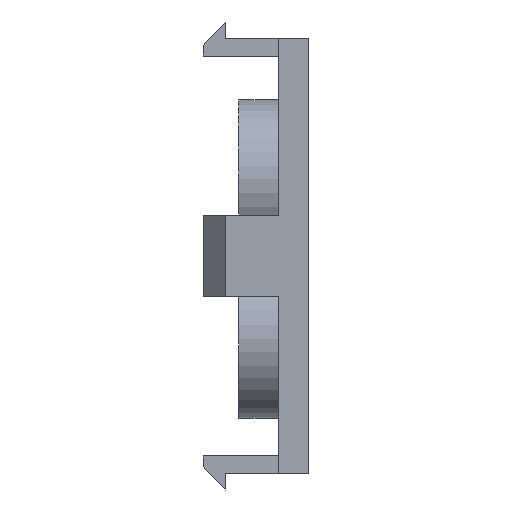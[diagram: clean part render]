
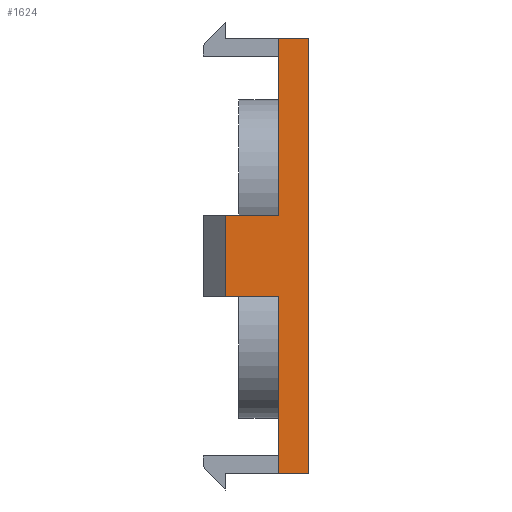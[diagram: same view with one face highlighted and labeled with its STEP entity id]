
A CAD part, left-side view. The second image highlights one B-rep face of the part: STEP entity #1624.
In plain terms, the highlighted planar face has unit normal (-1, 0, 0).
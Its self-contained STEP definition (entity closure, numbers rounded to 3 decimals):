
#43 = VECTOR ( 'NONE', #702, 1000. ) ;
#86 = DIRECTION ( 'NONE',  ( 0., 0., 1. ) ) ;
#97 = CARTESIAN_POINT ( 'NONE',  ( -24.71, 5.65, 2.75 ) ) ;
#116 = VERTEX_POINT ( 'NONE', #2056 ) ;
#129 = CARTESIAN_POINT ( 'NONE',  ( -24.71, 2.05, 14.7 ) ) ;
#135 = VECTOR ( 'NONE', #1855, 1000. ) ;
#136 = VECTOR ( 'NONE', #1331, 1000. ) ;
#154 = VERTEX_POINT ( 'NONE', #1371 ) ;
#215 = VERTEX_POINT ( 'NONE', #268 ) ;
#268 = CARTESIAN_POINT ( 'NONE',  ( -24.71, 2.05, -14.7 ) ) ;
#283 = CARTESIAN_POINT ( 'NONE',  ( -24.71, 2.05, -14.7 ) ) ;
#336 = CARTESIAN_POINT ( 'NONE',  ( -24.71, 5.65, 2.75 ) ) ;
#378 = DIRECTION ( 'NONE',  ( 0., -1., 0. ) ) ;
#497 = DIRECTION ( 'NONE',  ( 0., 0., -1. ) ) ;
#546 = CARTESIAN_POINT ( 'NONE',  ( -24.71, 7.15, 2.75 ) ) ;
#552 = VECTOR ( 'NONE', #1832, 1000. ) ;
#572 = ORIENTED_EDGE ( 'NONE', *, *, #1401, .F. ) ;
#641 = CARTESIAN_POINT ( 'NONE',  ( -24.71, 2.05, -14.7 ) ) ;
#685 = ORIENTED_EDGE ( 'NONE', *, *, #1229, .F. ) ;
#694 = DIRECTION ( 'NONE',  ( 0., -1., 0. ) ) ;
#702 = DIRECTION ( 'NONE',  ( 0., -1., 0. ) ) ;
#718 = VERTEX_POINT ( 'NONE', #2062 ) ;
#743 = EDGE_CURVE ( 'NONE', #718, #1092, #1559, .T. ) ;
#822 = VECTOR ( 'NONE', #378, 1000. ) ;
#886 = ORIENTED_EDGE ( 'NONE', *, *, #743, .T. ) ;
#889 = CARTESIAN_POINT ( 'NONE',  ( -24.71, 2.05, -14.7 ) ) ;
#890 = LINE ( 'NONE', #1166, #136 ) ;
#898 = EDGE_CURVE ( 'NONE', #154, #1002, #1961, .T. ) ;
#899 = ORIENTED_EDGE ( 'NONE', *, *, #898, .T. ) ;
#900 = DIRECTION ( 'NONE',  ( 1., 0., 0. ) ) ;
#1002 = VERTEX_POINT ( 'NONE', #1474 ) ;
#1055 = AXIS2_PLACEMENT_3D ( 'NONE', #889, #900, #2110 ) ;
#1070 = LINE ( 'NONE', #283, #1575 ) ;
#1087 = ORIENTED_EDGE ( 'NONE', *, *, #1513, .T. ) ;
#1092 = VERTEX_POINT ( 'NONE', #1673 ) ;
#1166 = CARTESIAN_POINT ( 'NONE',  ( -24.71, 2.05, 14.7 ) ) ;
#1180 = CARTESIAN_POINT ( 'NONE',  ( -24.71, 0., -14.7 ) ) ;
#1229 = EDGE_CURVE ( 'NONE', #1919, #116, #1721, .T. ) ;
#1232 = VECTOR ( 'NONE', #497, 1000. ) ;
#1293 = ORIENTED_EDGE ( 'NONE', *, *, #1969, .F. ) ;
#1305 = LINE ( 'NONE', #641, #552 ) ;
#1331 = DIRECTION ( 'NONE',  ( 0., -1., 0. ) ) ;
#1371 = CARTESIAN_POINT ( 'NONE',  ( -24.71, 0., -14.7 ) ) ;
#1380 = ORIENTED_EDGE ( 'NONE', *, *, #1905, .F. ) ;
#1401 = EDGE_CURVE ( 'NONE', #1444, #1002, #890, .T. ) ;
#1444 = VERTEX_POINT ( 'NONE', #129 ) ;
#1474 = CARTESIAN_POINT ( 'NONE',  ( -24.71, 0., 14.7 ) ) ;
#1513 = EDGE_CURVE ( 'NONE', #215, #154, #1877, .T. ) ;
#1559 = LINE ( 'NONE', #1886, #1904 ) ;
#1575 = VECTOR ( 'NONE', #86, 1000. ) ;
#1624 = ADVANCED_FACE ( 'NONE', ( #1658 ), #1922, .F. ) ;
#1658 = FACE_OUTER_BOUND ( 'NONE', #1708, .T. ) ;
#1673 = CARTESIAN_POINT ( 'NONE',  ( -24.71, 2.05, -2.75 ) ) ;
#1708 = EDGE_LOOP ( 'NONE', ( #685, #2150, #886, #1380, #1087, #899, #572, #1293 ) ) ;
#1721 = LINE ( 'NONE', #546, #822 ) ;
#1800 = EDGE_CURVE ( 'NONE', #1919, #718, #2094, .T. ) ;
#1832 = DIRECTION ( 'NONE',  ( 0., 0., 1. ) ) ;
#1855 = DIRECTION ( 'NONE',  ( 0., 0., 1. ) ) ;
#1856 = CARTESIAN_POINT ( 'NONE',  ( -24.71, 2.05, -14.7 ) ) ;
#1877 = LINE ( 'NONE', #1856, #43 ) ;
#1886 = CARTESIAN_POINT ( 'NONE',  ( -24.71, 7.15, -2.75 ) ) ;
#1904 = VECTOR ( 'NONE', #694, 1000. ) ;
#1905 = EDGE_CURVE ( 'NONE', #215, #1092, #1070, .T. ) ;
#1919 = VERTEX_POINT ( 'NONE', #97 ) ;
#1922 = PLANE ( 'NONE',  #1055 ) ;
#1961 = LINE ( 'NONE', #1180, #135 ) ;
#1969 = EDGE_CURVE ( 'NONE', #116, #1444, #1305, .T. ) ;
#2056 = CARTESIAN_POINT ( 'NONE',  ( -24.71, 2.05, 2.75 ) ) ;
#2062 = CARTESIAN_POINT ( 'NONE',  ( -24.71, 5.65, -2.75 ) ) ;
#2094 = LINE ( 'NONE', #336, #1232 ) ;
#2110 = DIRECTION ( 'NONE',  ( 0., 0., -1. ) ) ;
#2150 = ORIENTED_EDGE ( 'NONE', *, *, #1800, .T. ) ;
